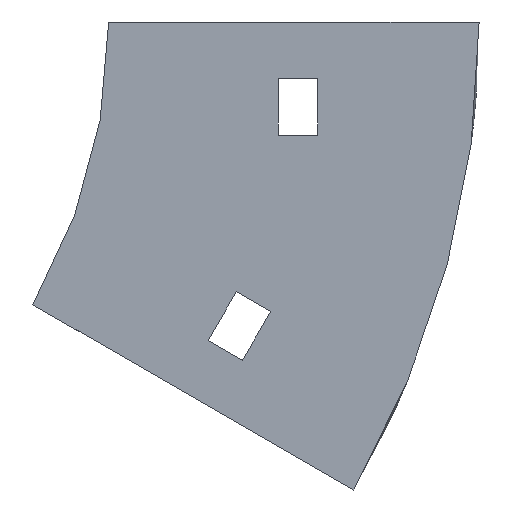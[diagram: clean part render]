
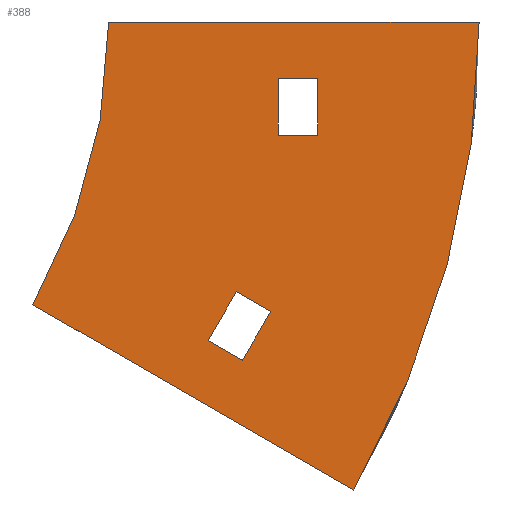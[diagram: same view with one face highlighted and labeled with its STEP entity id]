
A CAD part, left-side view. The second image highlights one B-rep face of the part: STEP entity #388.
In plain terms, the highlighted planar face has unit normal (-1, 0, 0).
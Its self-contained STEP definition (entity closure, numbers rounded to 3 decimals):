
#21 = AXIS2_PLACEMENT_3D ( 'NONE', #32, #240, #330 ) ;
#32 = CARTESIAN_POINT ( 'NONE',  ( -102., 100., 0. ) ) ;
#35 = ORIENTED_EDGE ( 'NONE', *, *, #1147, .T. ) ;
#49 = PLANE ( 'NONE',  #80 ) ;
#80 = AXIS2_PLACEMENT_3D ( 'NONE', #413, #687, #659 ) ;
#85 = EDGE_CURVE ( 'NONE', #742, #1032, #756, .T. ) ;
#95 = CIRCLE ( 'NONE', #21, 165.5 ) ;
#97 = CARTESIAN_POINT ( 'NONE',  ( -102., -37., -10. ) ) ;
#119 = VERTEX_POINT ( 'NONE', #580 ) ;
#123 = EDGE_CURVE ( 'NONE', #119, #542, #432, .T. ) ;
#135 = EDGE_CURVE ( 'NONE', #1032, #672, #289, .T. ) ;
#150 = LINE ( 'NONE', #1116, #202 ) ;
#165 = DIRECTION ( 'NONE',  ( 0., 0.866, 0.5 ) ) ;
#170 = CARTESIAN_POINT ( 'NONE',  ( -102., -23.645, -59.84 ) ) ;
#174 = CARTESIAN_POINT ( 'NONE',  ( -102., -17.583, -56.34 ) ) ;
#202 = VECTOR ( 'NONE', #512, 1000. ) ;
#209 = DIRECTION ( 'NONE',  ( -1., 0., 0. ) ) ;
#215 = CARTESIAN_POINT ( 'NONE',  ( -102., 100., 0. ) ) ;
#222 = VECTOR ( 'NONE', #165, 1000. ) ;
#240 = DIRECTION ( 'NONE',  ( 1., 0., 0. ) ) ;
#247 = LINE ( 'NONE', #1056, #683 ) ;
#250 = LINE ( 'NONE', #607, #357 ) ;
#251 = VERTEX_POINT ( 'NONE', #952 ) ;
#261 = EDGE_CURVE ( 'NONE', #886, #742, #1061, .T. ) ;
#278 = DIRECTION ( 'NONE',  ( 0., -0.5, 0.866 ) ) ;
#281 = CARTESIAN_POINT ( 'NONE',  ( -102., -37., -20. ) ) ;
#289 = LINE ( 'NONE', #945, #767 ) ;
#330 = DIRECTION ( 'NONE',  ( 0., 0., -1. ) ) ;
#336 = LINE ( 'NONE', #799, #222 ) ;
#337 = CARTESIAN_POINT ( 'NONE',  ( -102., -22.583, -47.679 ) ) ;
#349 = DIRECTION ( 'NONE',  ( 0., -1., 0. ) ) ;
#357 = VECTOR ( 'NONE', #1090, 1000. ) ;
#368 = EDGE_CURVE ( 'NONE', #672, #886, #545, .T. ) ;
#388 = ADVANCED_FACE ( 'NONE', ( #772, #940, #508 ), #49, .F. ) ;
#393 = DIRECTION ( 'NONE',  ( 0., 0.5, -0.866 ) ) ;
#398 = VERTEX_POINT ( 'NONE', #1018 ) ;
#404 = ORIENTED_EDGE ( 'NONE', *, *, #955, .T. ) ;
#410 = EDGE_LOOP ( 'NONE', ( #998, #474, #523, #1135 ) ) ;
#413 = CARTESIAN_POINT ( 'NONE',  ( -102., 100., 0. ) ) ;
#414 = CARTESIAN_POINT ( 'NONE',  ( -102., -28.645, -51.179 ) ) ;
#424 = DIRECTION ( 'NONE',  ( 0., 0.866, 0.5 ) ) ;
#432 = CIRCLE ( 'NONE', #880, 100. ) ;
#439 = LINE ( 'NONE', #527, #1076 ) ;
#444 = CARTESIAN_POINT ( 'NONE',  ( -102., -65.5, 0. ) ) ;
#457 = EDGE_CURVE ( 'NONE', #251, #831, #250, .T. ) ;
#474 = ORIENTED_EDGE ( 'NONE', *, *, #85, .F. ) ;
#508 = FACE_BOUND ( 'NONE', #410, .T. ) ;
#512 = DIRECTION ( 'NONE',  ( 0., 0., -1. ) ) ;
#523 = ORIENTED_EDGE ( 'NONE', *, *, #261, .F. ) ;
#527 = CARTESIAN_POINT ( 'NONE',  ( -102., -30., -20. ) ) ;
#542 = VERTEX_POINT ( 'NONE', #1083 ) ;
#545 = LINE ( 'NONE', #549, #907 ) ;
#549 = CARTESIAN_POINT ( 'NONE',  ( -102., -23.645, -59.84 ) ) ;
#558 = VERTEX_POINT ( 'NONE', #814 ) ;
#565 = DIRECTION ( 'NONE',  ( 0., 0., -1. ) ) ;
#578 = DIRECTION ( 'NONE',  ( 0., -0.866, -0.5 ) ) ;
#580 = CARTESIAN_POINT ( 'NONE',  ( -102., 13.397, -50. ) ) ;
#594 = EDGE_LOOP ( 'NONE', ( #35, #777, #404, #704 ) ) ;
#607 = CARTESIAN_POINT ( 'NONE',  ( -102., -30., -10. ) ) ;
#638 = ORIENTED_EDGE ( 'NONE', *, *, #719, .F. ) ;
#648 = VECTOR ( 'NONE', #349, 1000. ) ;
#659 = DIRECTION ( 'NONE',  ( 0., 0., -1. ) ) ;
#668 = ORIENTED_EDGE ( 'NONE', *, *, #717, .F. ) ;
#672 = VERTEX_POINT ( 'NONE', #170 ) ;
#683 = VECTOR ( 'NONE', #783, 1000. ) ;
#687 = DIRECTION ( 'NONE',  ( 1., 0., 0. ) ) ;
#704 = ORIENTED_EDGE ( 'NONE', *, *, #1050, .T. ) ;
#712 = CARTESIAN_POINT ( 'NONE',  ( -102., -65.5, 0. ) ) ;
#714 = VECTOR ( 'NONE', #424, 1000. ) ;
#717 = EDGE_CURVE ( 'NONE', #398, #119, #336, .T. ) ;
#719 = EDGE_CURVE ( 'NONE', #542, #754, #1082, .T. ) ;
#735 = ORIENTED_EDGE ( 'NONE', *, *, #1130, .F. ) ;
#742 = VERTEX_POINT ( 'NONE', #985 ) ;
#754 = VERTEX_POINT ( 'NONE', #444 ) ;
#756 = LINE ( 'NONE', #1103, #933 ) ;
#767 = VECTOR ( 'NONE', #578, 1000. ) ;
#772 = FACE_OUTER_BOUND ( 'NONE', #1108, .T. ) ;
#777 = ORIENTED_EDGE ( 'NONE', *, *, #457, .T. ) ;
#783 = DIRECTION ( 'NONE',  ( 0., 0., 1. ) ) ;
#799 = CARTESIAN_POINT ( 'NONE',  ( -102., 13.397, -50. ) ) ;
#814 = CARTESIAN_POINT ( 'NONE',  ( -102., -30., -20. ) ) ;
#831 = VERTEX_POINT ( 'NONE', #97 ) ;
#880 = AXIS2_PLACEMENT_3D ( 'NONE', #215, #209, #565 ) ;
#886 = VERTEX_POINT ( 'NONE', #414 ) ;
#887 = DIRECTION ( 'NONE',  ( 0., 1., 0. ) ) ;
#907 = VECTOR ( 'NONE', #278, 1000. ) ;
#933 = VECTOR ( 'NONE', #393, 1000. ) ;
#940 = FACE_BOUND ( 'NONE', #594, .T. ) ;
#945 = CARTESIAN_POINT ( 'NONE',  ( -102., -17.583, -56.34 ) ) ;
#952 = CARTESIAN_POINT ( 'NONE',  ( -102., -30., -10. ) ) ;
#955 = EDGE_CURVE ( 'NONE', #831, #1101, #150, .T. ) ;
#985 = CARTESIAN_POINT ( 'NONE',  ( -102., -22.583, -47.679 ) ) ;
#998 = ORIENTED_EDGE ( 'NONE', *, *, #135, .F. ) ;
#1018 = CARTESIAN_POINT ( 'NONE',  ( -102., -43.327, -82.75 ) ) ;
#1032 = VERTEX_POINT ( 'NONE', #174 ) ;
#1050 = EDGE_CURVE ( 'NONE', #1101, #558, #439, .T. ) ;
#1056 = CARTESIAN_POINT ( 'NONE',  ( -102., -30., -10. ) ) ;
#1061 = LINE ( 'NONE', #337, #714 ) ;
#1076 = VECTOR ( 'NONE', #887, 1000. ) ;
#1078 = ORIENTED_EDGE ( 'NONE', *, *, #123, .F. ) ;
#1082 = LINE ( 'NONE', #712, #648 ) ;
#1083 = CARTESIAN_POINT ( 'NONE',  ( -102., 0., 0. ) ) ;
#1090 = DIRECTION ( 'NONE',  ( 0., -1., 0. ) ) ;
#1101 = VERTEX_POINT ( 'NONE', #281 ) ;
#1103 = CARTESIAN_POINT ( 'NONE',  ( -102., -17.583, -56.34 ) ) ;
#1108 = EDGE_LOOP ( 'NONE', ( #1078, #668, #735, #638 ) ) ;
#1116 = CARTESIAN_POINT ( 'NONE',  ( -102., -37., -10. ) ) ;
#1130 = EDGE_CURVE ( 'NONE', #754, #398, #95, .T. ) ;
#1135 = ORIENTED_EDGE ( 'NONE', *, *, #368, .F. ) ;
#1147 = EDGE_CURVE ( 'NONE', #558, #251, #247, .T. ) ;
